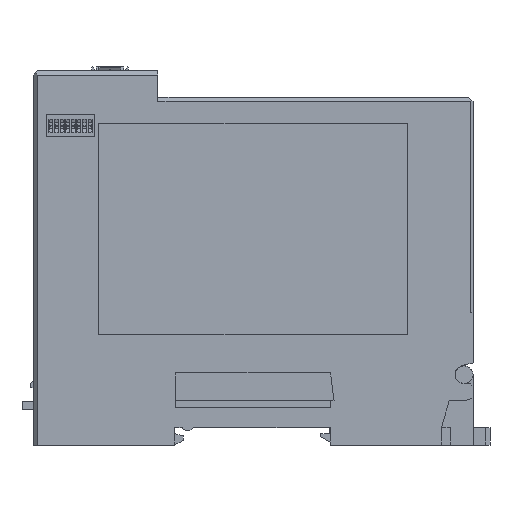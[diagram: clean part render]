
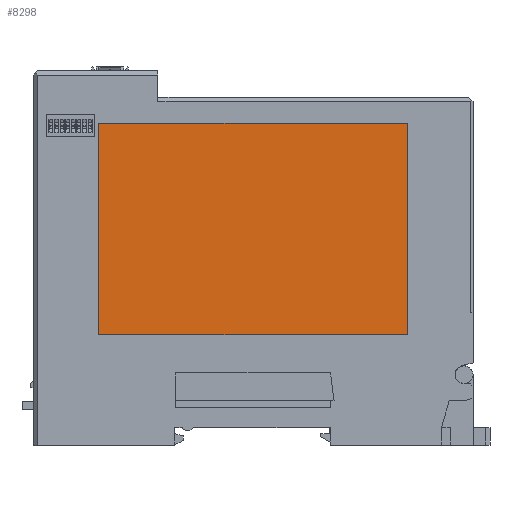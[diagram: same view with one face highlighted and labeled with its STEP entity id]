
A CAD part, left-side view. The second image highlights one B-rep face of the part: STEP entity #8298.
In plain terms, the highlighted planar face has unit normal (-1, 0, 0).
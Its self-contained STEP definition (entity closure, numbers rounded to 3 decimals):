
#1639 = CARTESIAN_POINT ( 'NONE',  ( -14.7, 35.01, -17.46 ) ) ;
#1833 = CARTESIAN_POINT ( 'NONE',  ( -14.7, 35.01, 30.55 ) ) ;
#2796 = VECTOR ( 'NONE', #16191, 1000. ) ;
#4161 = CARTESIAN_POINT ( 'NONE',  ( -14.7, -35., -17.46 ) ) ;
#8298 = ADVANCED_FACE ( 'NONE', ( #21568 ), #21385, .T. ) ;
#8900 = VERTEX_POINT ( 'NONE', #9377 ) ;
#9297 = DIRECTION ( 'NONE',  ( 0., -1., 0. ) ) ;
#9377 = CARTESIAN_POINT ( 'NONE',  ( -14.7, 35.01, -17.46 ) ) ;
#9760 = LINE ( 'NONE', #1639, #29278 ) ;
#10218 = EDGE_CURVE ( 'NONE', #22937, #16065, #27023, .T. ) ;
#11300 = CARTESIAN_POINT ( 'NONE',  ( -14.7, -35., -17.46 ) ) ;
#13852 = ORIENTED_EDGE ( 'NONE', *, *, #19243, .T. ) ;
#13956 = ORIENTED_EDGE ( 'NONE', *, *, #27693, .T. ) ;
#14635 = CARTESIAN_POINT ( 'NONE',  ( -14.7, 35.01, -17.46 ) ) ;
#16065 = VERTEX_POINT ( 'NONE', #23068 ) ;
#16191 = DIRECTION ( 'NONE',  ( 0., 1., 0. ) ) ;
#17408 = ORIENTED_EDGE ( 'NONE', *, *, #10218, .T. ) ;
#17932 = LINE ( 'NONE', #14635, #21517 ) ;
#18626 = DIRECTION ( 'NONE',  ( -1., 0., 0. ) ) ;
#19243 = EDGE_CURVE ( 'NONE', #35015, #22937, #25270, .T. ) ;
#19811 = EDGE_LOOP ( 'NONE', ( #13956, #13852, #17408, #36387 ) ) ;
#20978 = AXIS2_PLACEMENT_3D ( 'NONE', #27070, #18626, #21032 ) ;
#21032 = DIRECTION ( 'NONE',  ( 0., 0., 1. ) ) ;
#21385 = PLANE ( 'NONE',  #20978 ) ;
#21517 = VECTOR ( 'NONE', #9297, 1000. ) ;
#21568 = FACE_OUTER_BOUND ( 'NONE', #19811, .T. ) ;
#22521 = DIRECTION ( 'NONE',  ( 0., 0., 1. ) ) ;
#22726 = CARTESIAN_POINT ( 'NONE',  ( -14.7, -35., 30.55 ) ) ;
#22937 = VERTEX_POINT ( 'NONE', #22726 ) ;
#23068 = CARTESIAN_POINT ( 'NONE',  ( -14.7, 35.01, 30.55 ) ) ;
#23156 = VECTOR ( 'NONE', #22521, 1000. ) ;
#25270 = LINE ( 'NONE', #11300, #23156 ) ;
#27023 = LINE ( 'NONE', #1833, #2796 ) ;
#27070 = CARTESIAN_POINT ( 'NONE',  ( -14.7, 0., 0. ) ) ;
#27693 = EDGE_CURVE ( 'NONE', #8900, #35015, #17932, .T. ) ;
#29278 = VECTOR ( 'NONE', #32334, 1000. ) ;
#31524 = EDGE_CURVE ( 'NONE', #16065, #8900, #9760, .T. ) ;
#32334 = DIRECTION ( 'NONE',  ( 0., 0., -1. ) ) ;
#35015 = VERTEX_POINT ( 'NONE', #4161 ) ;
#36387 = ORIENTED_EDGE ( 'NONE', *, *, #31524, .T. ) ;
